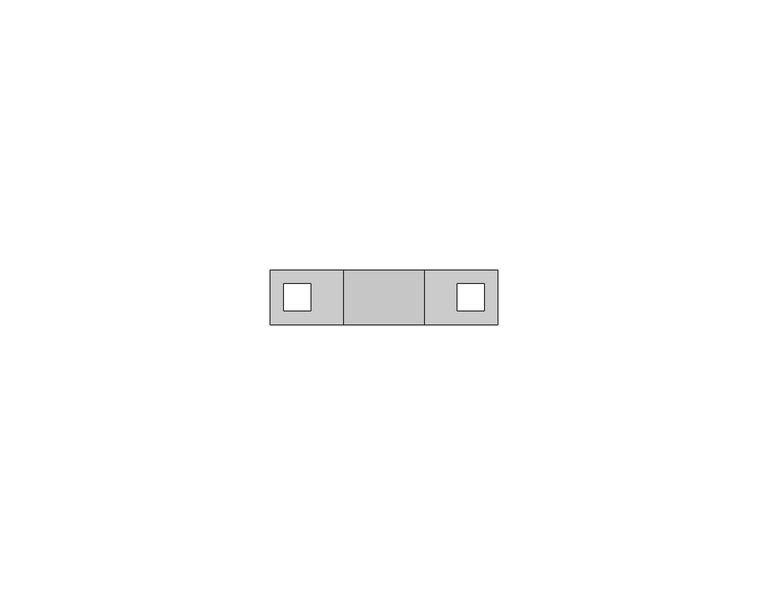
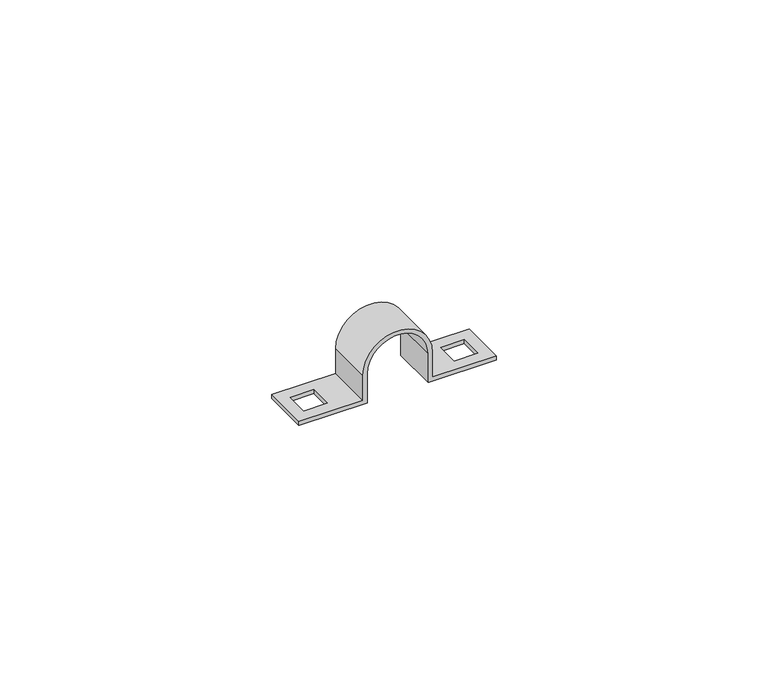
"""IFC4 building model written with IfcOpenShell, lengths in millimetres: cable carrier fitting geometry, КНС_ДержательОцинкованныйДвусторонний_DKC : д.13мм."""

from ifc_helpers import new_model, si_unit, frame, origin, place, context, project, spatial, polyline, circle_curve, source, transform, mapped, element, save
from ifc_brep_helpers import plane_surface, cylinder_surface, revolved_surface, advanced_brep


def cable_carrier_fitting_7289a710(model_context):
    return source(origin(), model_context, "Body", "AdvancedBrep", [
        advanced_brep(
        [(21.0, -5.0, 0.0), (21.0, -5.0, 0.9), (7.4, -5.0, 0.9), (7.4, -5.0, 6.5), (-7.4, -5.0, 6.5), (-7.4, -5.0, 0.9), (-21.0, -5.0, 0.9), (-21.0, -5.0, 0.0), (-6.5, -5.0, 0.0), (-6.5, -5.0, 6.5), (6.5, -5.0, 6.5), (6.5, -5.0, 0.0), (21.0, 5.0, 0.0), (6.5, 5.0, 0.0), (6.5, 5.0, 6.5), (-6.5, 5.0, 6.5), (-6.5, 5.0, 0.0), (-21.0, 5.0, 0.0), (-21.0, 5.0, 0.9), (-7.4, 5.0, 0.9), (-7.4, 5.0, 6.5), (7.4, 5.0, 6.5), (7.4, 5.0, 0.9), (21.0, 5.0, 0.9), (18.5, -2.5, 0.9), (13.5, -2.5, 0.9), (13.5, 2.5, 0.9), (18.5, 2.5, 0.9), (-18.5, 2.5, 0.9), (-13.5, 2.5, 0.9), (-13.5, -2.5, 0.9), (-18.5, -2.5, 0.9), (-13.5, 2.5, 0.0), (-18.5, 2.5, 0.0), (-18.5, -2.5, 0.0), (-13.5, -2.5, 0.0), (13.5, -2.5, 0.0), (18.5, -2.5, 0.0), (18.5, 2.5, 0.0), (13.5, 2.5, 0.0)],
        [
            (0, 1),
            (1, 2),
            (2, 3),
            (3, 4, circle_curve(frame((0.0, -5.0, 6.5), z_axis=(0.0, -1.0, 0.0), x_axis=(1.0, 0.0, 0.0)), 7.4)),
            (4, 5),
            (5, 6),
            (6, 7),
            (7, 8),
            (8, 9),
            (9, 10, circle_curve(frame((0.0, -5.0, 6.5), z_axis=(0.0, 1.0, 0.0), x_axis=(1.0, 0.0, 0.0)), 6.5)),
            (10, 11),
            (11, 0),
            (12, 13),
            (13, 14),
            (14, 15, circle_curve(frame((0.0, 5.0, 6.5), z_axis=(0.0, -1.0, 0.0), x_axis=(1.0, 0.0, 0.0)), 6.5)),
            (15, 16),
            (16, 17),
            (17, 18),
            (18, 19),
            (19, 20),
            (20, 21, circle_curve(frame((0.0, 5.0, 6.5), z_axis=(0.0, 1.0, 0.0), x_axis=(1.0, 0.0, 0.0)), 7.4)),
            (21, 22),
            (22, 23),
            (23, 12),
            (0, 12),
            (23, 1),
            (22, 2),
            (24, 25),
            (25, 26),
            (26, 27),
            (27, 24),
            (21, 3),
            (20, 4),
            (19, 5),
            (18, 6),
            (28, 29),
            (29, 30),
            (30, 31),
            (31, 28),
            (17, 7),
            (16, 8),
            (32, 33),
            (33, 34),
            (34, 35),
            (35, 32),
            (15, 9),
            (14, 10),
            (13, 11),
            (36, 37),
            (37, 38),
            (38, 39),
            (39, 36),
            (32, 29),
            (28, 33),
            (31, 34),
            (30, 35),
            (36, 25),
            (24, 37),
            (27, 38),
            (26, 39),
        ],
        [
            plane_surface(frame((21.0, -5.0, 0.9), z_axis=(0.0, -1.0, 0.0), x_axis=(0.0, 0.0, 1.0))),
            plane_surface(frame((21.0, 5.0, 0.9), z_axis=(0.0, 1.0, 0.0), x_axis=(0.0, 0.0, -1.0))),
            plane_surface(frame((21.0, -5.0, 0.0), z_axis=(1.0, 0.0, 0.0), x_axis=(0.0, 1.0, 0.0))),
            plane_surface(frame((21.0, -5.0, 0.9), z_axis=(0.0, 0.0, 1.0), x_axis=(0.0, 1.0, 0.0))),
            plane_surface(frame((7.4, -5.0, 0.9), z_axis=(1.0, 0.0, 0.0), x_axis=(0.0, 1.0, 0.0))),
            cylinder_surface(frame((0.0, 5.0, 6.5), z_axis=(0.0, -1.0, 0.0), x_axis=(1.0, 0.0, 0.0)), 7.4),
            plane_surface(frame((-7.4, -5.0, 6.5), z_axis=(-1.0, 0.0, 0.0), x_axis=(0.0, 1.0, 0.0))),
            plane_surface(frame((-7.4, -5.0, 0.9), z_axis=(0.0, 0.0, 1.0), x_axis=(0.0, 1.0, 0.0))),
            plane_surface(frame((-21.0, -5.0, 0.9), z_axis=(-1.0, 0.0, 0.0), x_axis=(0.0, 1.0, 0.0))),
            plane_surface(frame((-21.0, -5.0, 0.0), z_axis=(0.0, 0.0, -1.0), x_axis=(0.0, 1.0, 0.0))),
            plane_surface(frame((-6.5, -5.0, 0.0), z_axis=(1.0, 0.0, 0.0), x_axis=(0.0, 1.0, 0.0))),
            revolved_surface(polyline([(6.5, 5.0, 6.5), (6.5, -5.0, 6.5)]), (0.0, 5.0, 6.5), (0.0, 1.0, 0.0)),
            plane_surface(frame((6.5, -5.0, 6.5), z_axis=(-1.0, 0.0, 0.0), x_axis=(0.0, 1.0, 0.0))),
            plane_surface(frame((6.5, -5.0, 0.0), z_axis=(0.0, 0.0, -1.0), x_axis=(0.0, 1.0, 0.0))),
            plane_surface(frame((-13.5, 2.5, 21.959409), z_axis=(0.0, -1.0, 0.0), x_axis=(0.0, 0.0, -1.0))),
            plane_surface(frame((-18.5, 2.5, 21.959409), z_axis=(1.0, 0.0, 0.0), x_axis=(0.0, 0.0, -1.0))),
            plane_surface(frame((-18.5, -2.5, 21.959409), z_axis=(0.0, 1.0, 0.0), x_axis=(0.0, 0.0, -1.0))),
            plane_surface(frame((-13.5, -2.5, 21.959409), z_axis=(-1.0, 0.0, 0.0), x_axis=(0.0, 0.0, -1.0))),
            plane_surface(frame((13.5, -2.5, 21.959409), z_axis=(0.0, 1.0, 0.0), x_axis=(0.0, 0.0, -1.0))),
            plane_surface(frame((18.5, -2.5, 21.959409), z_axis=(-1.0, 0.0, 0.0), x_axis=(0.0, 0.0, -1.0))),
            plane_surface(frame((18.5, 2.5, 21.959409), z_axis=(0.0, -1.0, 0.0), x_axis=(0.0, 0.0, -1.0))),
            plane_surface(frame((13.5, 2.5, 21.959409), z_axis=(1.0, 0.0, 0.0), x_axis=(0.0, 0.0, -1.0))),
        ],
        [
            (0, [[1, 2, 3, 4, 5, 6, 7, 8, 9, 10, 11, 12]]),
            (1, [[13, 14, 15, 16, 17, 18, 19, 20, 21, 22, 23, 24]]),
            (2, [[-1, 25, -24, 26]]),
            (3, [[-2, -26, -23, 27], [28, 29, 30, 31]]),
            (4, [[-3, -27, -22, 32]]),
            (5, [[-4, -32, -21, 33]]),
            (6, [[-5, -33, -20, 34]]),
            (7, [[-6, -34, -19, 35], [36, 37, 38, 39]]),
            (8, [[-7, -35, -18, 40]]),
            (9, [[-8, -40, -17, 41], [42, 43, 44, 45]]),
            (10, [[-9, -41, -16, 46]]),
            (11, [[-10, -46, -15, 47]]),
            (12, [[-11, -47, -14, 48]]),
            (13, [[-12, -48, -13, -25], [49, 50, 51, 52]]),
            (14, [[53, -36, 54, -42]]),
            (15, [[-54, -39, 55, -43]]),
            (16, [[-55, -38, 56, -44]]),
            (17, [[-53, -45, -56, -37]]),
            (18, [[57, -28, 58, -49]]),
            (19, [[-58, -31, 59, -50]]),
            (20, [[-59, -30, 60, -51]]),
            (21, [[-57, -52, -60, -29]]),
        ],
    ),
    ])


if __name__ == "__main__":
    model = new_model("IFC4")
    model_context = context("Model", 3, world=origin())
    ifc_project = project(units=[si_unit("LENGTHUNIT", "METRE", prefix="MILLI")], contexts=[model_context])
    site = spatial("IfcSite", under=ifc_project)
    building = spatial("IfcBuilding", under=site)
    placement = place(None, origin())
    cable_carrier_fitting_shape = cable_carrier_fitting_7289a710(model_context)
    element("IfcCableCarrierFitting", 1, ObjectType="КНС_ДержательОцинкованныйДвусторонний_DKC : д.13мм", at=placement, inside=building, context=model_context, shape_type="MappedRepresentation", body=[
        mapped(cable_carrier_fitting_shape, transform((0.0, 0.0, 0.0), x_axis=(1.0, 0.0, 0.0), y_axis=(0.0, 1.0, 0.0), z_axis=(0.0, 0.0, 1.0))),
    ])
    save(model, "model.ifc")
